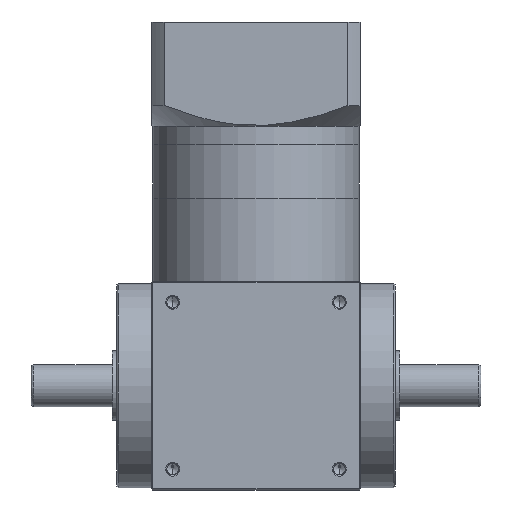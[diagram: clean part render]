
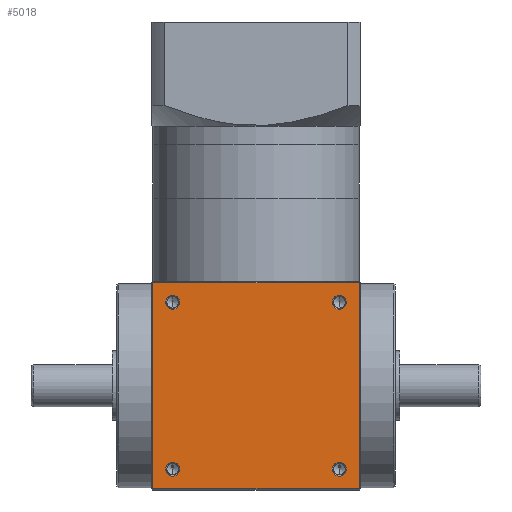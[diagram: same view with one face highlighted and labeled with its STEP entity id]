
A CAD part, front view. The second image highlights one B-rep face of the part: STEP entity #5018.
In plain terms, the highlighted planar face has unit normal (0, -1, 0).
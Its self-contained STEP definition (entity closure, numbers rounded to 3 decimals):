
#490 = CIRCLE ( 'NONE', #49784, 3.025 ) ;
#868 = AXIS2_PLACEMENT_3D ( 'NONE', #32624, #8720, #36658 ) ;
#1466 = VERTEX_POINT ( 'NONE', #34068 ) ;
#1721 = EDGE_LOOP ( 'NONE', ( #46214, #12860 ) ) ;
#2354 = AXIS2_PLACEMENT_3D ( 'NONE', #36322, #12326, #40355 ) ;
#3306 = EDGE_LOOP ( 'NONE', ( #7808, #35762 ) ) ;
#3620 = DIRECTION ( 'NONE',  ( -1., 0., 0. ) ) ;
#3668 = ORIENTED_EDGE ( 'NONE', *, *, #38689, .F. ) ;
#3693 = DIRECTION ( 'NONE',  ( 0., 0., 1. ) ) ;
#4177 = EDGE_CURVE ( 'NONE', #41322, #40223, #21272, .T. ) ;
#5018 = ADVANCED_FACE ( 'NONE', ( #27109, #45906, #5908, #35247, #29601 ), #51512, .F. ) ;
#5823 = VERTEX_POINT ( 'NONE', #50268 ) ;
#5908 = FACE_BOUND ( 'NONE', #3306, .T. ) ;
#7004 = VERTEX_POINT ( 'NONE', #48846 ) ;
#7732 = DIRECTION ( 'NONE',  ( 0., 0., -1. ) ) ;
#7808 = ORIENTED_EDGE ( 'NONE', *, *, #4177, .F. ) ;
#7886 = DIRECTION ( 'NONE',  ( 0., -1., 0. ) ) ;
#8051 = CARTESIAN_POINT ( 'NONE',  ( 36., -45., 9. ) ) ;
#8720 = DIRECTION ( 'NONE',  ( 0., -1., 0. ) ) ;
#8816 = ORIENTED_EDGE ( 'NONE', *, *, #31811, .F. ) ;
#9316 = VECTOR ( 'NONE', #3620, 1000. ) ;
#10326 = CARTESIAN_POINT ( 'NONE',  ( -36., -45., 9. ) ) ;
#10674 = EDGE_CURVE ( 'NONE', #7004, #1466, #37971, .T. ) ;
#10991 = CARTESIAN_POINT ( 'NONE',  ( 36., -45., 81. ) ) ;
#11045 = EDGE_LOOP ( 'NONE', ( #47658, #3668, #35344, #30547 ) ) ;
#11684 = ORIENTED_EDGE ( 'NONE', *, *, #31526, .F. ) ;
#12278 = VERTEX_POINT ( 'NONE', #38250 ) ;
#12326 = DIRECTION ( 'NONE',  ( 0., -1., 0. ) ) ;
#12860 = ORIENTED_EDGE ( 'NONE', *, *, #44335, .F. ) ;
#13747 = VECTOR ( 'NONE', #26915, 1000. ) ;
#13951 = VERTEX_POINT ( 'NONE', #20521 ) ;
#14067 = CIRCLE ( 'NONE', #42496, 3.025 ) ;
#14335 = DIRECTION ( 'NONE',  ( 0., 0., -1. ) ) ;
#14500 = CIRCLE ( 'NONE', #19887, 3.025 ) ;
#15011 = DIRECTION ( 'NONE',  ( 0., 0., -1. ) ) ;
#15486 = CARTESIAN_POINT ( 'NONE',  ( -45., -45., 90. ) ) ;
#16209 = EDGE_CURVE ( 'NONE', #33757, #24885, #47269, .T. ) ;
#16354 = VECTOR ( 'NONE', #26900, 1000. ) ;
#17132 = CARTESIAN_POINT ( 'NONE',  ( 36., -45., 5.975 ) ) ;
#17729 = AXIS2_PLACEMENT_3D ( 'NONE', #10991, #39022, #15011 ) ;
#17779 = CARTESIAN_POINT ( 'NONE',  ( 44.5, -45., 0.5 ) ) ;
#17931 = CARTESIAN_POINT ( 'NONE',  ( 36., -45., 9. ) ) ;
#18438 = VECTOR ( 'NONE', #22021, 1000. ) ;
#19809 = EDGE_CURVE ( 'NONE', #13951, #12278, #27017, .T. ) ;
#19887 = AXIS2_PLACEMENT_3D ( 'NONE', #17931, #45941, #21945 ) ;
#20521 = CARTESIAN_POINT ( 'NONE',  ( -44.5, -45., 89.5 ) ) ;
#20692 = CARTESIAN_POINT ( 'NONE',  ( -36., -45., 81. ) ) ;
#21272 = CIRCLE ( 'NONE', #50483, 3.025 ) ;
#21945 = DIRECTION ( 'NONE',  ( 0., 0., -1. ) ) ;
#22021 = DIRECTION ( 'NONE',  ( 0., 0., -1. ) ) ;
#22369 = DIRECTION ( 'NONE',  ( 0., -1., 0. ) ) ;
#23047 = CARTESIAN_POINT ( 'NONE',  ( -44.5, -45., 90. ) ) ;
#23647 = CIRCLE ( 'NONE', #868, 3.025 ) ;
#24704 = DIRECTION ( 'NONE',  ( 0., 0., -1. ) ) ;
#24885 = VERTEX_POINT ( 'NONE', #46500 ) ;
#26900 = DIRECTION ( 'NONE',  ( 1., 0., 0. ) ) ;
#26915 = DIRECTION ( 'NONE',  ( 0., 0., 1. ) ) ;
#27017 = LINE ( 'NONE', #34772, #16354 ) ;
#27109 = FACE_BOUND ( 'NONE', #1721, .T. ) ;
#27585 = DIRECTION ( 'NONE',  ( 0., 1., 0. ) ) ;
#29601 = FACE_OUTER_BOUND ( 'NONE', #11045, .T. ) ;
#30547 = ORIENTED_EDGE ( 'NONE', *, *, #42946, .F. ) ;
#31526 = EDGE_CURVE ( 'NONE', #36238, #41870, #490, .T. ) ;
#31811 = EDGE_CURVE ( 'NONE', #1466, #7004, #39780, .T. ) ;
#32194 = EDGE_CURVE ( 'NONE', #41870, #36238, #14067, .T. ) ;
#32501 = EDGE_LOOP ( 'NONE', ( #11684, #41840 ) ) ;
#32624 = CARTESIAN_POINT ( 'NONE',  ( 36., -45., 81. ) ) ;
#33757 = VERTEX_POINT ( 'NONE', #40918 ) ;
#34068 = CARTESIAN_POINT ( 'NONE',  ( -36., -45., 12.025 ) ) ;
#34772 = CARTESIAN_POINT ( 'NONE',  ( -45., -45., 89.5 ) ) ;
#35247 = FACE_BOUND ( 'NONE', #43869, .T. ) ;
#35344 = ORIENTED_EDGE ( 'NONE', *, *, #19809, .F. ) ;
#35762 = ORIENTED_EDGE ( 'NONE', *, *, #45972, .F. ) ;
#36238 = VERTEX_POINT ( 'NONE', #36723 ) ;
#36322 = CARTESIAN_POINT ( 'NONE',  ( -36., -45., 9. ) ) ;
#36496 = CARTESIAN_POINT ( 'NONE',  ( 36., -45., 12.025 ) ) ;
#36658 = DIRECTION ( 'NONE',  ( 0., 0., -1. ) ) ;
#36723 = CARTESIAN_POINT ( 'NONE',  ( -36., -45., 77.975 ) ) ;
#37550 = ORIENTED_EDGE ( 'NONE', *, *, #10674, .F. ) ;
#37971 = CIRCLE ( 'NONE', #40321, 3.025 ) ;
#38250 = CARTESIAN_POINT ( 'NONE',  ( 44.5, -45., 89.5 ) ) ;
#38355 = DIRECTION ( 'NONE',  ( 0., -1., 0. ) ) ;
#38689 = EDGE_CURVE ( 'NONE', #12278, #50030, #50327, .T. ) ;
#39022 = DIRECTION ( 'NONE',  ( 0., -1., 0. ) ) ;
#39423 = CARTESIAN_POINT ( 'NONE',  ( -45., -45., 0.5 ) ) ;
#39780 = CIRCLE ( 'NONE', #2354, 3.025 ) ;
#40223 = VERTEX_POINT ( 'NONE', #36496 ) ;
#40321 = AXIS2_PLACEMENT_3D ( 'NONE', #10326, #38355, #14335 ) ;
#40355 = DIRECTION ( 'NONE',  ( 0., 0., -1. ) ) ;
#40918 = CARTESIAN_POINT ( 'NONE',  ( 36., -45., 77.975 ) ) ;
#41322 = VERTEX_POINT ( 'NONE', #17132 ) ;
#41840 = ORIENTED_EDGE ( 'NONE', *, *, #32194, .F. ) ;
#41870 = VERTEX_POINT ( 'NONE', #48548 ) ;
#42015 = CARTESIAN_POINT ( 'NONE',  ( 44.5, -45., 90. ) ) ;
#42496 = AXIS2_PLACEMENT_3D ( 'NONE', #20692, #48659, #24704 ) ;
#42946 = EDGE_CURVE ( 'NONE', #5823, #13951, #46981, .T. ) ;
#43759 = LINE ( 'NONE', #39423, #9316 ) ;
#43840 = EDGE_CURVE ( 'NONE', #50030, #5823, #43759, .T. ) ;
#43869 = EDGE_LOOP ( 'NONE', ( #37550, #8816 ) ) ;
#44335 = EDGE_CURVE ( 'NONE', #24885, #33757, #23647, .T. ) ;
#45906 = FACE_BOUND ( 'NONE', #32501, .T. ) ;
#45941 = DIRECTION ( 'NONE',  ( 0., -1., 0. ) ) ;
#45972 = EDGE_CURVE ( 'NONE', #40223, #41322, #14500, .T. ) ;
#46214 = ORIENTED_EDGE ( 'NONE', *, *, #16209, .F. ) ;
#46351 = CARTESIAN_POINT ( 'NONE',  ( -36., -45., 81. ) ) ;
#46500 = CARTESIAN_POINT ( 'NONE',  ( 36., -45., 84.025 ) ) ;
#46981 = LINE ( 'NONE', #23047, #13747 ) ;
#47269 = CIRCLE ( 'NONE', #17729, 3.025 ) ;
#47658 = ORIENTED_EDGE ( 'NONE', *, *, #43840, .F. ) ;
#48548 = CARTESIAN_POINT ( 'NONE',  ( -36., -45., 84.025 ) ) ;
#48659 = DIRECTION ( 'NONE',  ( 0., -1., 0. ) ) ;
#48846 = CARTESIAN_POINT ( 'NONE',  ( -36., -45., 5.975 ) ) ;
#49784 = AXIS2_PLACEMENT_3D ( 'NONE', #46351, #22369, #50330 ) ;
#50030 = VERTEX_POINT ( 'NONE', #17779 ) ;
#50195 = AXIS2_PLACEMENT_3D ( 'NONE', #15486, #27585, #3693 ) ;
#50268 = CARTESIAN_POINT ( 'NONE',  ( -44.5, -45., 0.5 ) ) ;
#50327 = LINE ( 'NONE', #42015, #18438 ) ;
#50330 = DIRECTION ( 'NONE',  ( 0., 0., -1. ) ) ;
#50483 = AXIS2_PLACEMENT_3D ( 'NONE', #8051, #7886, #7732 ) ;
#51512 = PLANE ( 'NONE',  #50195 ) ;
